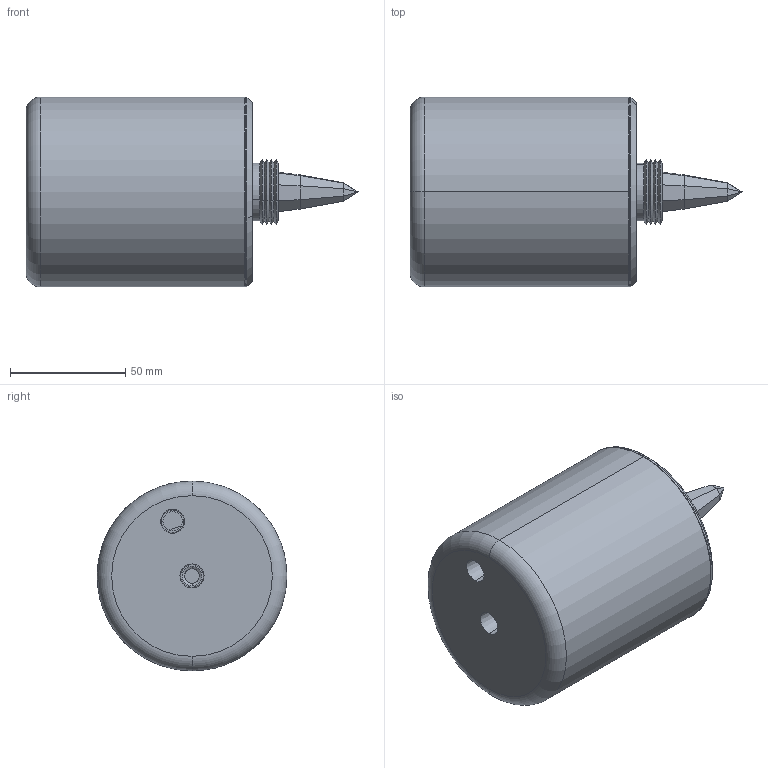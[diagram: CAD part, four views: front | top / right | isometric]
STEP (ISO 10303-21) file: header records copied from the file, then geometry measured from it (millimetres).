
FILE_DESCRIPTION (( 'STEP AP203' ), '1' );
FILE_NAME ('SP-006F.STEP', '2008-08-12T07:21:44', ( 'ANDREW' ), ( 'SIMONDS INC' ), 'SwSTEP 2.0', 'SolidWorks 2008', '' );
FILE_SCHEMA (( 'CONFIG_CONTROL_DESIGN' ));
Length unit declared in the file: inch
Products named in the file (4): 14-006 END CAP; 25-H; SP-006F; 1-006F
Assembly tree (3 placements, depth 2):
  SP-006F
    14-006 END CAP
    25-H
    1-006F
Bounding box: 144.32 x 82.55 x 82.55 mm (x, y, z)
Volume: 277877.2 mm3; surface area: 73390.9 mm2
Topology: 3 solids, 3 shells, 157 faces, 332 edges, 194 vertices
Faces by surface type: cone 68, plane 53, cylinder 32, torus 4
Entity records: 4652 total; most frequent: DIRECTION 796, CARTESIAN_POINT 763, ORIENTED_EDGE 664, EDGE_CURVE 332, AXIS2_PLACEMENT_3D 305, VERTEX_POINT 194, VECTOR 186, LINE 186
